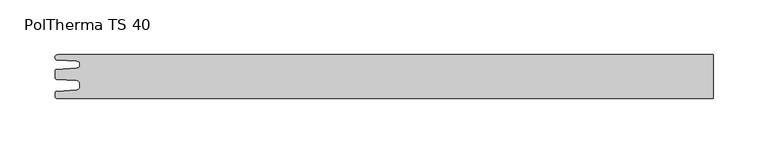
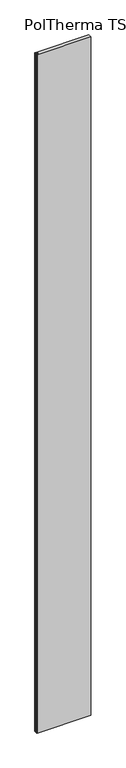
"""IFC4 building model written with IfcOpenShell, lengths in millimetres: plate geometry, Europanels_Poltherma TS_Vt : PolTherma TS 40."""

from ifc_helpers import new_model, si_unit, point, frame_2d, origin, origin_with_axes, place, context, project, spatial, polyline, circle_curve, trimmed, segment, composite_curve, outline, extrude, source, transform, mapped, element, save


def poltherma_ts_40_5d269152(model_context):
    return source(origin(), model_context, "Body", "SweptSolid", [
        extrude(outline(composite_curve([segment(trimmed(circle_curve(frame_2d((-296.2333097, 17.6345607)), 2.3654393), [point((-296.3610953, 15.2725755))], [point((-296.2333097, 20.0))], False, "CARTESIAN"), True, "CONTINUOUS"), segment(polyline([(-296.2333097, 20.0), (300.0, 20.0), (300.0, -20.0), (-296.5011047, -20.0)]), True, "CONTINUOUS"), segment(trimmed(circle_curve(frame_2d((-296.5011047, -18.0)), 2.0), [point((-296.5011047, -20.0))], [point((-298.5011047, -18.0))], False, "CARTESIAN"), True, "CONTINUOUS"), segment(polyline([(-298.5011047, -18.0), (-298.5011047, -15.2751521)]), True, "CONTINUOUS"), segment(trimmed(circle_curve(frame_2d((-296.5011047, -15.2751521)), 2.0), [point((-298.5011047, -15.2751521))], [point((-296.6091486, -13.2780726))], False, "CARTESIAN"), True, "CONTINUOUS"), segment(polyline([(-296.6091486, -13.2780726), (-278.8358621, -12.3165207)]), True, "CONTINUOUS"), segment(trimmed(circle_curve(frame_2d((-278.9979279, -9.3209015)), 3.0), [point((-278.8358621, -12.3165207))], [point((-275.9979279, -9.3209015))], True, "CARTESIAN"), True, "CONTINUOUS"), segment(polyline([(-275.9979279, -9.3209015), (-275.9979279, -6.3793238)]), True, "CONTINUOUS"), segment(trimmed(circle_curve(frame_2d((-278.9979279, -6.3793238)), 3.0), [point((-275.9979279, -6.3793238))], [point((-278.8252666, -3.3842966))], True, "CARTESIAN"), True, "CONTINUOUS"), segment(polyline([(-278.8252666, -3.3842966), (-296.8047015, -2.3477941)]), True, "CONTINUOUS"), segment(trimmed(circle_curve(frame_2d((-296.7011047, -0.5507777)), 1.8), [point((-296.8047015, -2.3477941))], [point((-298.5011047, -0.5507777))], False, "CARTESIAN"), True, "CONTINUOUS"), segment(polyline([(-298.5011047, -0.5507777), (-298.5011047, 4.9895357)]), True, "CONTINUOUS"), segment(trimmed(circle_curve(frame_2d((-296.7511047, 4.9895357)), 1.75), [point((-298.5011047, 4.9895357))], [point((-296.8518238, 6.7366349))], False, "CARTESIAN"), True, "CONTINUOUS"), segment(polyline([(-296.8518238, 6.7366349), (-278.9231671, 7.7702101)]), True, "CONTINUOUS"), segment(trimmed(circle_curve(frame_2d((-279.1122263, 11.0496782)), 3.2849132), [point((-278.9231671, 7.7702101))], [point((-278.9347688, 14.3297946))], True, "CARTESIAN"), True, "CONTINUOUS"), segment(polyline([(-278.9347688, 14.3297946), (-296.3610953, 15.2725755)]), True, "CONTINUOUS")], self_intersect=False)), origin_with_axes(), (0.0, 0.0, 1.0), 8000.0),
    ])


if __name__ == "__main__":
    model = new_model("IFC4")
    model_context = context("Model", 3, world=origin())
    ifc_project = project(units=[si_unit("LENGTHUNIT", "METRE", prefix="MILLI")], contexts=[model_context])
    site = spatial("IfcSite", under=ifc_project)
    building = spatial("IfcBuilding", under=site)
    placement = place(None, origin())
    poltherma_ts_40_shape = poltherma_ts_40_5d269152(model_context)
    element("IfcPlate", 1, ObjectType="Europanels_Poltherma TS_Vt : PolTherma TS 40", at=placement, inside=building, context=model_context, shape_type="MappedRepresentation", body=[
        mapped(poltherma_ts_40_shape, transform((0.0, 0.0, 0.0), x_axis=(1.0, 0.0, 0.0), y_axis=(0.0, 1.0, 0.0), z_axis=(0.0, 0.0, 1.0))),
    ])
    save(model, "model.ifc")
